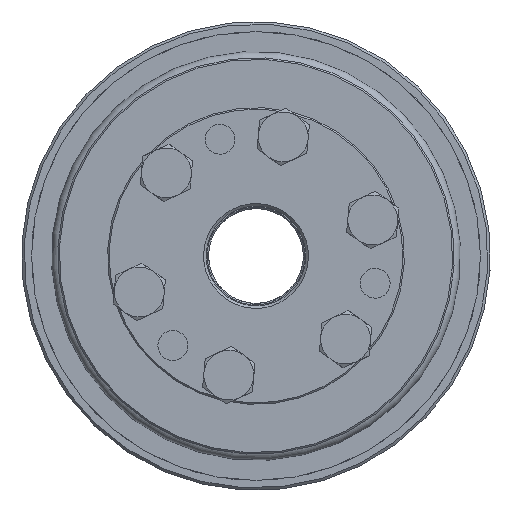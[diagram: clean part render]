
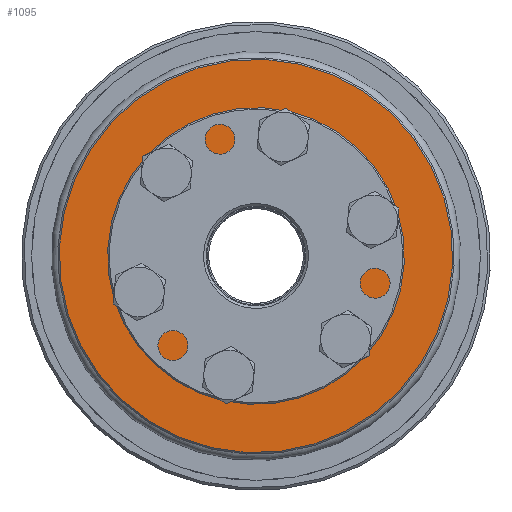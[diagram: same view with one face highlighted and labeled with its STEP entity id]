
A CAD part, left-side view. The second image highlights one B-rep face of the part: STEP entity #1095.
In plain terms, the highlighted planar face has unit normal (-1, 0, 0) as drawn and (1, 0, 0) by its records, which use the part's own axes.
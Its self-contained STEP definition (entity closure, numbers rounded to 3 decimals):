
#1095 = ADVANCED_FACE( 'NONE', ( #2191, #2192, #2193, #2194, #2195, #2196, #2197, #2198 ), #2199, .F. );
#2191 = FACE_OUTER_BOUND( '', #3218, .T. );
#2192 = FACE_BOUND( '', #3219, .T. );
#2193 = FACE_BOUND( '', #3220, .T. );
#2194 = FACE_BOUND( '', #3221, .T. );
#2195 = FACE_BOUND( '', #3222, .T. );
#2196 = FACE_BOUND( '', #3223, .T. );
#2197 = FACE_BOUND( '', #3224, .T. );
#2198 = FACE_BOUND( '', #3225, .T. );
#2199 = PLANE( '', #3226 );
#3218 = EDGE_LOOP( '', ( #4782 ) );
#3219 = EDGE_LOOP( '', ( #4783 ) );
#3220 = EDGE_LOOP( '', ( #4784 ) );
#3221 = EDGE_LOOP( '', ( #4785 ) );
#3222 = EDGE_LOOP( '', ( #4786 ) );
#3223 = EDGE_LOOP( '', ( #4787 ) );
#3224 = EDGE_LOOP( '', ( #4788 ) );
#3225 = EDGE_LOOP( '', ( #4789 ) );
#3226 = AXIS2_PLACEMENT_3D( '', #4790, #4791, #4792 );
#4782 = ORIENTED_EDGE( '', *, *, #5276, .T. );
#4783 = ORIENTED_EDGE( '', *, *, #4991, .T. );
#4784 = ORIENTED_EDGE( '', *, *, #5161, .F. );
#4785 = ORIENTED_EDGE( '', *, *, #5319, .F. );
#4786 = ORIENTED_EDGE( '', *, *, #5254, .F. );
#4787 = ORIENTED_EDGE( '', *, *, #5403, .F. );
#4788 = ORIENTED_EDGE( '', *, *, #5413, .F. );
#4789 = ORIENTED_EDGE( '', *, *, #5042, .F. );
#4790 = CARTESIAN_POINT( '', ( 20., 39.75, 0. ) );
#4791 = DIRECTION( '', ( -1., 0., 0. ) );
#4792 = DIRECTION( '', ( 0., 0., 1. ) );
#4991 = EDGE_CURVE( 'NONE', #5630, #5630, #5631, .T. );
#5042 = EDGE_CURVE( 'NONE', #5715, #5715, #5716, .T. );
#5161 = EDGE_CURVE( 'NONE', #5906, #5906, #5907, .T. );
#5254 = EDGE_CURVE( 'NONE', #6036, #6036, #6037, .T. );
#5276 = EDGE_CURVE( 'NONE', #6071, #6071, #6072, .T. );
#5319 = EDGE_CURVE( 'NONE', #6127, #6127, #6128, .T. );
#5403 = EDGE_CURVE( 'NONE', #6235, #6235, #6236, .T. );
#5413 = EDGE_CURVE( 'NONE', #6248, #6248, #6249, .T. );
#5630 = VERTEX_POINT( '', #6502 );
#5631 = CIRCLE( '', #6503, 20.835 );
#5715 = VERTEX_POINT( '', #6675 );
#5716 = CIRCLE( '', #6676, 3. );
#5906 = VERTEX_POINT( '', #6909 );
#5907 = CIRCLE( '', #6910, 3. );
#6036 = VERTEX_POINT( '', #7206 );
#6037 = CIRCLE( '', #7207, 3. );
#6071 = VERTEX_POINT( '', #7245 );
#6072 = CIRCLE( '', #7246, 39.45 );
#6127 = VERTEX_POINT( '', #7303 );
#6128 = CIRCLE( '', #7304, 3. );
#6235 = VERTEX_POINT( '', #7444 );
#6236 = CIRCLE( '', #7445, 3. );
#6248 = VERTEX_POINT( '', #7460 );
#6249 = CIRCLE( '', #7461, 3. );
#6502 = CARTESIAN_POINT( '', ( 20., 0., 20.835 ) );
#6503 = AXIS2_PLACEMENT_3D( '', #7849, #7850, #7851 );
#6675 = CARTESIAN_POINT( '', ( 20., 12.25, 18.218 ) );
#6676 = AXIS2_PLACEMENT_3D( '', #7931, #7932, #7933 );
#6909 = CARTESIAN_POINT( '', ( 20., -12.25, 18.218 ) );
#6910 = AXIS2_PLACEMENT_3D( '', #8127, #8128, #8129 );
#7206 = CARTESIAN_POINT( '', ( 20., 12.25, -24.218 ) );
#7207 = AXIS2_PLACEMENT_3D( '', #8240, #8241, #8242 );
#7245 = CARTESIAN_POINT( '', ( 20., 0., 39.45 ) );
#7246 = AXIS2_PLACEMENT_3D( '', #8280, #8281, #8282 );
#7303 = CARTESIAN_POINT( '', ( 20., 24.5, -3. ) );
#7304 = AXIS2_PLACEMENT_3D( '', #8336, #8337, #8338 );
#7444 = CARTESIAN_POINT( '', ( 20., -12.25, -24.218 ) );
#7445 = AXIS2_PLACEMENT_3D( '', #8423, #8424, #8425 );
#7460 = CARTESIAN_POINT( '', ( 20., -24.5, -3. ) );
#7461 = AXIS2_PLACEMENT_3D( '', #8432, #8433, #8434 );
#7849 = CARTESIAN_POINT( '', ( 20., 0., 0. ) );
#7850 = DIRECTION( '', ( -1., 0., 0. ) );
#7851 = DIRECTION( '', ( 0., 0., 1. ) );
#7931 = CARTESIAN_POINT( '', ( 20., 12.25, 21.218 ) );
#7932 = DIRECTION( '', ( 1., 0., 0. ) );
#7933 = DIRECTION( '', ( 0., 0., -1. ) );
#8127 = CARTESIAN_POINT( '', ( 20., -12.25, 21.218 ) );
#8128 = DIRECTION( '', ( 1., 0., 0. ) );
#8129 = DIRECTION( '', ( 0., 0., -1. ) );
#8240 = CARTESIAN_POINT( '', ( 20., 12.25, -21.218 ) );
#8241 = DIRECTION( '', ( 1., 0., 0. ) );
#8242 = DIRECTION( '', ( 0., 0., -1. ) );
#8280 = CARTESIAN_POINT( '', ( 20., 0., 0. ) );
#8281 = DIRECTION( '', ( 1., 0., 0. ) );
#8282 = DIRECTION( '', ( 0., 0., 1. ) );
#8336 = CARTESIAN_POINT( '', ( 20., 24.5, 0. ) );
#8337 = DIRECTION( '', ( 1., 0., 0. ) );
#8338 = DIRECTION( '', ( 0., 0., -1. ) );
#8423 = CARTESIAN_POINT( '', ( 20., -12.25, -21.218 ) );
#8424 = DIRECTION( '', ( 1., 0., 0. ) );
#8425 = DIRECTION( '', ( 0., 0., -1. ) );
#8432 = CARTESIAN_POINT( '', ( 20., -24.5, 0. ) );
#8433 = DIRECTION( '', ( 1., 0., 0. ) );
#8434 = DIRECTION( '', ( 0., 0., -1. ) );
